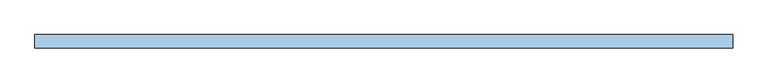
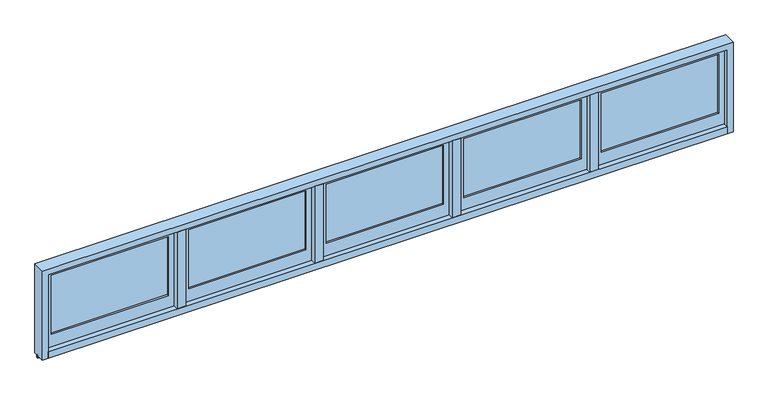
"""IFC4 building model written with IfcOpenShell, lengths in millimetres: window geometry, B_嵌殺窓1段5列 : AW4_H560W4680."""

from ifc_helpers import new_model, si_unit, frame, origin, place, context, project, spatial, polyline, outline, extrude, source, transform, mapped, element, save


def window_ed3df4e0(model_context):
    return source(origin(), model_context, "Body", "SweptSolid", [
        extrude(outline(polyline([(2300.0, 40.0), (1492.0, 40.0), (1492.0, 45.0), (2300.0, 45.0), (2300.0, 40.0)])), frame((0.0, 0.0, 990.0), z_axis=(0.0, 0.0, 1.0), x_axis=(1.0, 0.0, 0.0)), (0.0, 0.0, 1.0), 430.0),
        extrude(outline(polyline([(1460.0, 2340.0), (1460.0, 1452.0), (900.0, 1452.0), (900.0, 2340.0), (1460.0, 2340.0)]), holes=[polyline([(1420.0, 2300.0), (990.0, 2300.0), (990.0, 1492.0), (1420.0, 1492.0), (1420.0, 2300.0)])]), frame((0.0, 27.5, 0.0), z_axis=(0.0, 1.0, 0.0), x_axis=(0.0, 0.0, 1.0)), (0.0, 0.0, 1.0), 30.0),
        extrude(outline(polyline([(1352.0, 40.0), (544.0, 40.0), (544.0, 45.0), (1352.0, 45.0), (1352.0, 40.0)])), frame((0.0, 0.0, 990.0), z_axis=(0.0, 0.0, 1.0), x_axis=(1.0, 0.0, 0.0)), (0.0, 0.0, 1.0), 430.0),
        extrude(outline(polyline([(1460.0, 1392.0), (1460.0, 504.0), (900.0, 504.0), (900.0, 1392.0), (1460.0, 1392.0)]), holes=[polyline([(1420.0, 1352.0), (990.0, 1352.0), (990.0, 544.0), (1420.0, 544.0), (1420.0, 1352.0)])]), frame((0.0, 27.5, 0.0), z_axis=(0.0, 1.0, 0.0), x_axis=(0.0, 0.0, 1.0)), (0.0, 0.0, 1.0), 30.0),
        extrude(outline(polyline([(504.0, -7.5), (444.0, -7.5), (444.0, 62.5), (504.0, 62.5), (504.0, -7.5)])), frame((0.0, 0.0, 900.0), z_axis=(0.0, 0.0, 1.0), x_axis=(1.0, 0.0, 0.0)), (0.0, 0.0, 1.0), 560.0),
        extrude(outline(polyline([(-444.0, -7.5), (-504.0, -7.5), (-504.0, 62.5), (-444.0, 62.5), (-444.0, -7.5)])), frame((0.0, 0.0, 900.0), z_axis=(0.0, 0.0, 1.0), x_axis=(1.0, 0.0, 0.0)), (0.0, 0.0, 1.0), 560.0),
        extrude(outline(polyline([(404.0, 40.0), (-404.0, 40.0), (-404.0, 45.0), (404.0, 45.0), (404.0, 40.0)])), frame((0.0, 0.0, 990.0), z_axis=(0.0, 0.0, 1.0), x_axis=(1.0, 0.0, 0.0)), (0.0, 0.0, 1.0), 430.0),
        extrude(outline(polyline([(1460.0, 444.0), (1460.0, -444.0), (900.0, -444.0), (900.0, 444.0), (1460.0, 444.0)]), holes=[polyline([(1420.0, 404.0), (990.0, 404.0), (990.0, -404.0), (1420.0, -404.0), (1420.0, 404.0)])]), frame((0.0, 27.5, 0.0), z_axis=(0.0, 1.0, 0.0), x_axis=(0.0, 0.0, 1.0)), (0.0, 0.0, 1.0), 30.0),
        extrude(outline(polyline([(-544.0, 40.0), (-1352.0, 40.0), (-1352.0, 45.0), (-544.0, 45.0), (-544.0, 40.0)])), frame((0.0, 0.0, 990.0), z_axis=(0.0, 0.0, 1.0), x_axis=(1.0, 0.0, 0.0)), (0.0, 0.0, 1.0), 430.0),
        extrude(outline(polyline([(1460.0, -504.0), (1460.0, -1392.0), (900.0, -1392.0), (900.0, -504.0), (1460.0, -504.0)]), holes=[polyline([(1420.0, -544.0), (990.0, -544.0), (990.0, -1352.0), (1420.0, -1352.0), (1420.0, -544.0)])]), frame((0.0, 27.5, 0.0), z_axis=(0.0, 1.0, 0.0), x_axis=(0.0, 0.0, 1.0)), (0.0, 0.0, 1.0), 30.0),
        extrude(outline(polyline([(1452.0, -7.5), (1392.0, -7.5), (1392.0, 62.5), (1452.0, 62.5), (1452.0, -7.5)])), frame((0.0, 0.0, 900.0), z_axis=(0.0, 0.0, 1.0), x_axis=(1.0, 0.0, 0.0)), (0.0, 0.0, 1.0), 560.0),
        extrude(outline(polyline([(-1392.0, -7.5), (-1452.0, -7.5), (-1452.0, 62.5), (-1392.0, 62.5), (-1392.0, -7.5)])), frame((0.0, 0.0, 900.0), z_axis=(0.0, 0.0, 1.0), x_axis=(1.0, 0.0, 0.0)), (0.0, 0.0, 1.0), 560.0),
        extrude(outline(polyline([(-1492.0, 40.0), (-2300.0, 40.0), (-2300.0, 45.0), (-1492.0, 45.0), (-1492.0, 40.0)])), frame((0.0, 0.0, 990.0), z_axis=(0.0, 0.0, 1.0), x_axis=(1.0, 0.0, 0.0)), (0.0, 0.0, 1.0), 430.0),
        extrude(outline(polyline([(1460.0, -1452.0), (1460.0, -2340.0), (900.0, -2340.0), (900.0, -1452.0), (1460.0, -1452.0)]), holes=[polyline([(1420.0, -1492.0), (990.0, -1492.0), (990.0, -2300.0), (1420.0, -2300.0), (1420.0, -1492.0)])]), frame((0.0, 27.5, 0.0), z_axis=(0.0, 1.0, 0.0), x_axis=(0.0, 0.0, 1.0)), (0.0, 0.0, 1.0), 30.0),
        extrude(outline(polyline([(2380.0, 62.5), (2380.0, 47.5), (-2380.0, 47.5), (-2380.0, 62.5), (2380.0, 62.5)])), frame((0.0, 0.0, 830.0), z_axis=(0.0, 0.0, 1.0), x_axis=(1.0, 0.0, 0.0)), (0.0, 0.0, 1.0), 20.0),
        extrude(outline(polyline([(-7.5, 850.0), (-7.5, 900.0), (82.5, 888.0), (82.5, 850.0), (-7.5, 850.0)])), frame((-2340.0, 0.0, 0.0), z_axis=(1.0, 0.0, 0.0), x_axis=(0.0, 1.0, 0.0)), (0.0, 0.0, 1.0), 4680.0),
        extrude(outline(polyline([(850.0, -2380.0), (850.0, -2340.0), (1460.0, -2340.0), (1460.0, 2340.0), (850.0, 2340.0), (850.0, 2380.0), (1500.0, 2380.0), (1500.0, -2380.0), (850.0, -2380.0)])), frame((0.0, -7.5, 0.0), z_axis=(0.0, 1.0, 0.0), x_axis=(0.0, 0.0, 1.0)), (0.0, 0.0, 1.0), 90.0),
    ])


if __name__ == "__main__":
    model = new_model("IFC4")
    model_context = context("Model", 3, world=origin())
    ifc_project = project(units=[si_unit("LENGTHUNIT", "METRE", prefix="MILLI")], contexts=[model_context])
    site = spatial("IfcSite", under=ifc_project)
    building = spatial("IfcBuilding", under=site)
    placement = place(None, origin())
    window_shape = window_ed3df4e0(model_context)
    element("IfcWindow", 1, ObjectType="B_嵌殺窓1段5列 : AW4_H560W4680", at=placement, inside=building, context=model_context, shape_type="MappedRepresentation", body=[
        mapped(window_shape, transform((0.0, 0.0, 0.0), x_axis=(1.0, 0.0, 0.0), y_axis=(0.0, 1.0, 0.0), z_axis=(0.0, 0.0, 1.0))),
    ])
    save(model, "model.ifc")
